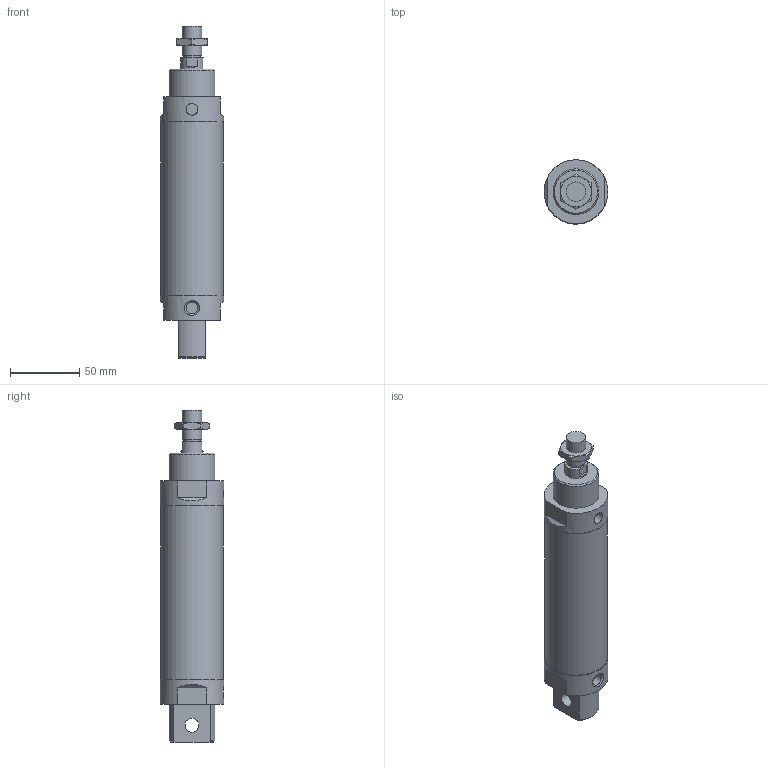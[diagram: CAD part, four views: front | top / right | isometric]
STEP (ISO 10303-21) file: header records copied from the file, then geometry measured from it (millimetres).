
FILE_DESCRIPTION((''),'2;1');
FILE_NAME('I:\3D電子目錄\氣缸\FDA\FDA\FDA\FDA40\FDA40x75.stp','2007-10-23T13:30:25',('66-2f-008'),(''),'Autodesk Inventor 11','Autodesk Inventor 11','');
FILE_SCHEMA(('AUTOMOTIVE_DESIGN { 1 0 10303 214 1 1 1 1 }'));
Length unit declared in the file: millimetre
Products named in the file (1): FDA40
Bounding box: 45.99 x 45.95 x 239 mm (x, y, z)
Volume: 294318.3 mm3; surface area: 33778 mm2
Topology: 1 solids, 1 shells, 62 faces, 144 edges, 95 vertices
Faces by surface type: plane 29, cone 15, cylinder 13, bspline 5
Full cylindrical faces by diameter (mm): 8.5 x2, 10 x1, 12 x1, 14 x2, 16 x1, 33 x1, 45 x1, 46 x2
Entity records: 1929 total; most frequent: CARTESIAN_POINT 638, DIRECTION 256, ORIENTED_EDGE 250, EDGE_CURVE 125, AXIS2_PLACEMENT_3D 106, VERTEX_POINT 88, EDGE_LOOP 87, FACE_OUTER_BOUND 62
